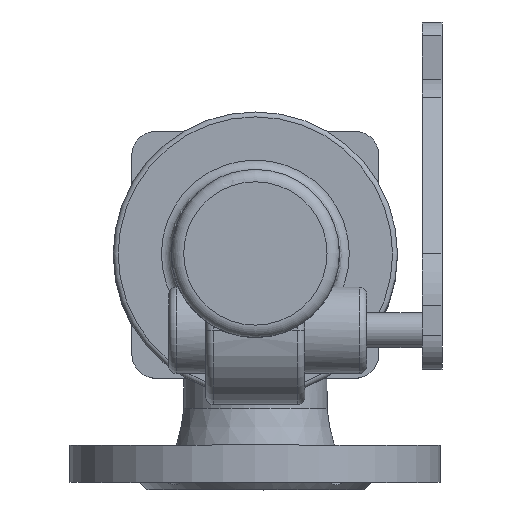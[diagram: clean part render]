
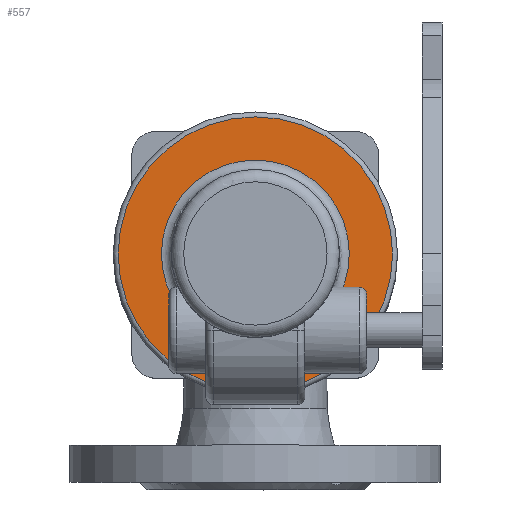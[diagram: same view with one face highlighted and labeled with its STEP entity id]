
A CAD part, top view. The second image highlights one B-rep face of the part: STEP entity #557.
In plain terms, the highlighted planar face has unit normal (0, 0, 1).
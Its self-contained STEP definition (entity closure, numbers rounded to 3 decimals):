
#557=ADVANCED_FACE('',(#1725,#1727),#1729,.T.);
#1725=FACE_BOUND('',#1726,.T.);
#1726=EDGE_LOOP('',(#2644,#2645));
#1727=FACE_BOUND('',#1728,.T.);
#1728=EDGE_LOOP('',(#2646,#2647,#2648,#2649));
#1729=PLANE('',#1730);
#1730=AXIS2_PLACEMENT_3D('',#1731,#1732,#1733);
#1731=CARTESIAN_POINT('',(0.,0.,313.));
#1732=DIRECTION('',(0.,0.,1.));
#1733=DIRECTION('',(0.,-1.,0.));
#2644=ORIENTED_EDGE('',*,*,#3194,.T.);
#2645=ORIENTED_EDGE('',*,*,#3195,.T.);
#2646=ORIENTED_EDGE('',*,*,#3205,.F.);
#2647=ORIENTED_EDGE('',*,*,#3206,.F.);
#2648=ORIENTED_EDGE('',*,*,#3207,.F.);
#2649=ORIENTED_EDGE('',*,*,#3208,.F.);
#3194=EDGE_CURVE('',#3644,#3645,#3646,.T.);
#3195=EDGE_CURVE('',#3645,#3644,#3647,.T.);
#3205=EDGE_CURVE('',#3666,#3667,#3668,.T.);
#3206=EDGE_CURVE('',#3669,#3666,#3670,.F.);
#3207=EDGE_CURVE('',#3671,#3669,#3672,.T.);
#3208=EDGE_CURVE('',#3667,#3671,#3673,.T.);
#3644=VERTEX_POINT('',#5117);
#3645=VERTEX_POINT('',#5118);
#3646=CIRCLE('',#5119,55.5);
#3647=CIRCLE('',#5123,55.5);
#3666=VERTEX_POINT('',#5172);
#3667=VERTEX_POINT('',#5173);
#3668=LINE('',#5174,#5175);
#3669=VERTEX_POINT('',#5177);
#3670=LINE('',#5178,#5179);
#3671=VERTEX_POINT('',#5181);
#3672=CIRCLE('',#5182,38.);
#3673=LINE('',#5186,#5187);
#5117=CARTESIAN_POINT('',(0.,-55.5,313.));
#5118=CARTESIAN_POINT('',(0.,55.5,313.));
#5119=AXIS2_PLACEMENT_3D('',#5120,#5121,#5122);
#5120=CARTESIAN_POINT('',(0.,0.,313.));
#5121=DIRECTION('',(0.,0.,1.));
#5122=DIRECTION('',(0.,-1.,0.));
#5123=AXIS2_PLACEMENT_3D('',#5124,#5125,#5126);
#5124=CARTESIAN_POINT('',(0.,0.,313.));
#5125=DIRECTION('',(0.,0.,1.));
#5126=DIRECTION('',(0.,1.,0.));
#5172=CARTESIAN_POINT('',(-8.,-42.,313.));
#5173=CARTESIAN_POINT('',(8.,-42.,313.));
#5174=CARTESIAN_POINT('',(-8.,-42.,313.));
#5175=VECTOR('',#5176,1.);
#5176=DIRECTION('',(1.,0.,0.));
#5177=CARTESIAN_POINT('',(-8.,-37.148,313.));
#5178=CARTESIAN_POINT('',(-8.,-42.,313.));
#5179=VECTOR('',#5180,1.);
#5180=DIRECTION('',(0.,1.,0.));
#5181=CARTESIAN_POINT('',(8.,-37.148,313.));
#5182=AXIS2_PLACEMENT_3D('',#5183,#5184,#5185);
#5183=CARTESIAN_POINT('',(0.,0.,313.));
#5184=DIRECTION('',(0.,0.,1.));
#5185=DIRECTION('',(0.211,-0.978,0.));
#5186=CARTESIAN_POINT('',(8.,-42.,313.));
#5187=VECTOR('',#5188,1.);
#5188=DIRECTION('',(0.,1.,0.));
